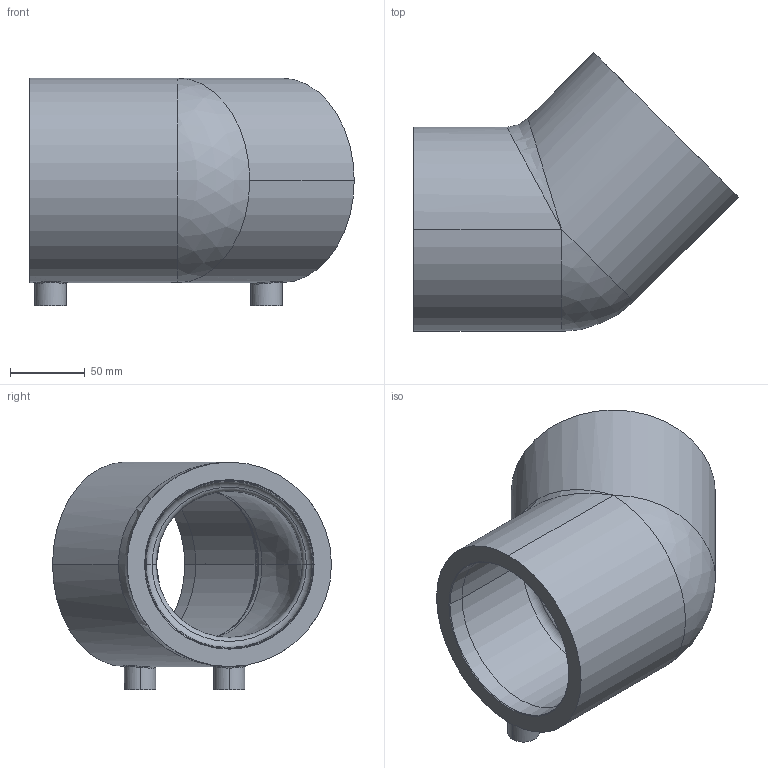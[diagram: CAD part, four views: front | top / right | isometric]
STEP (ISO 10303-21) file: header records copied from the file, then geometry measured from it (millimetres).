
FILE_DESCRIPTION (( 'STEP AP214' ), '1' );
FILE_NAME ('EBKHA110X45.STEP', '2018-09-20T12:43:06', ( '' ), ( '' ), 'SwSTEP 2.0', 'SolidWorks 2017', '' );
FILE_SCHEMA (( 'AUTOMOTIVE_DESIGN' ));
Length unit declared in the file: millimetre
Products named in the file (1): EBKHA110X45
Bounding box: 217.44 x 186.94 x 152.6 mm (x, y, z)
Volume: 1107073.2 mm3; surface area: 166430.1 mm2
Topology: 2 solids, 2 shells, 66 faces, 151 edges, 90 vertices
Faces by surface type: cylinder 24, cone 15, plane 11, torus 8, bspline 7, sphere 1
Entity records: 3245 total; most frequent: CARTESIAN_POINT 1664, DIRECTION 307, ORIENTED_EDGE 294, EDGE_CURVE 147, AXIS2_PLACEMENT_3D 134, VERTEX_POINT 90, CIRCLE 74, EDGE_LOOP 73
